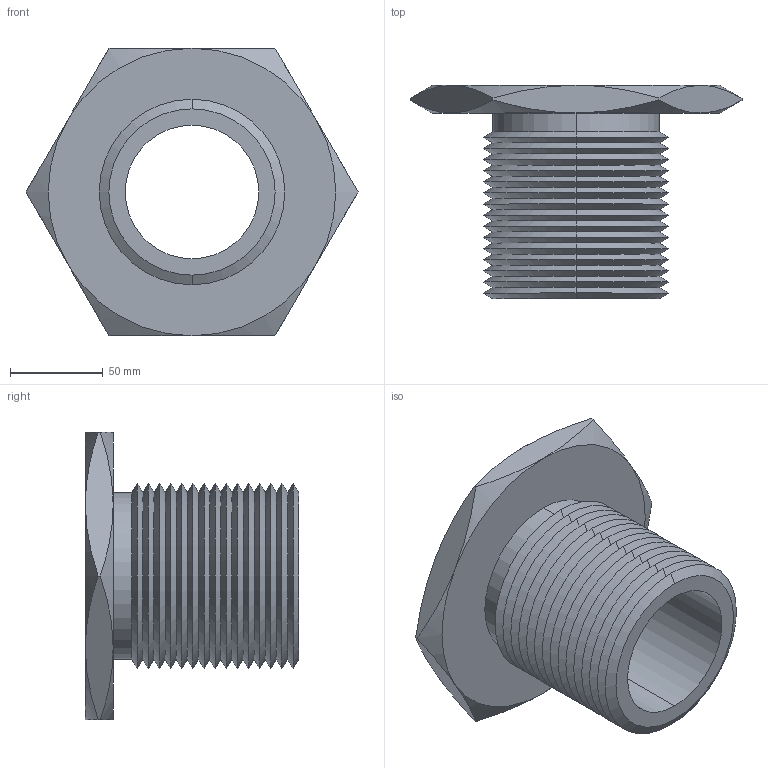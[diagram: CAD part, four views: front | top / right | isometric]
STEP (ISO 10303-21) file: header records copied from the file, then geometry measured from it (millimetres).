
FILE_DESCRIPTION (( 'STEP AP203' ), '1' );
FILE_NAME ('63302.W0100_M72x6.step', '2013-12-08T11:32:34', ( 'User' ), ( '' ), 'SwSTEP 2.0', 'SolidWorks 2009', '' );
FILE_SCHEMA (( 'CONFIG_CONTROL_DESIGN' ));
Length unit declared in the file: millimetre
Products named in the file (1): 63302.W0100_M72x6
Bounding box: 178.98 x 115 x 155 mm (x, y, z)
Volume: 530497.5 mm3; surface area: 121262.9 mm2
Topology: 1 solids, 1 shells, 87 faces, 178 edges, 94 vertices
Faces by surface type: cone 74, plane 9, cylinder 4
Entity records: 2479 total; most frequent: CARTESIAN_POINT 584, DIRECTION 412, ORIENTED_EDGE 356, EDGE_CURVE 178, AXIS2_PLACEMENT_3D 170, VERTEX_POINT 94, EDGE_LOOP 90, ADVANCED_FACE 87
